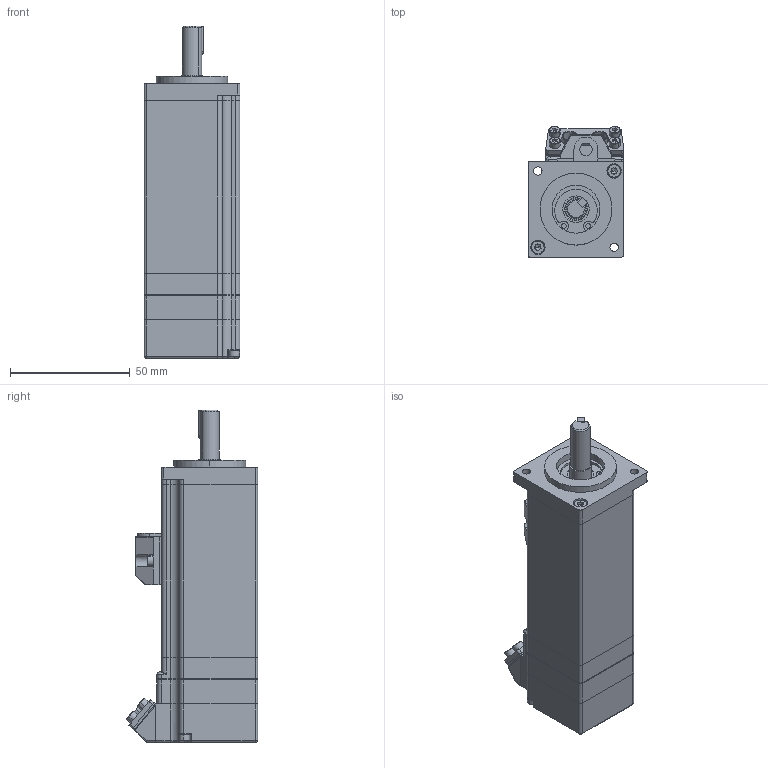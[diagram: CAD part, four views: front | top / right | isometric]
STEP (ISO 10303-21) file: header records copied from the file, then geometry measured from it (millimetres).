
FILE_DESCRIPTION (( 'STEP AP203' ), '1' );
FILE_NAME ('SMH40-530D10EBL-1.STEP', '2020-03-18T01:57:47', ( 'user' ), ( '' ), 'SwSTEP 2.0', 'SolidWorks 2016', '' );
FILE_SCHEMA (( 'CONFIG_CONTROL_DESIGN' ));
Length unit declared in the file: millimetre
Products named in the file (1): SMH40-530D10EBL-1
Bounding box: 40 x 54.65 x 138.4 mm (x, y, z)
Volume: 79183.9 mm3; surface area: 60227.9 mm2
Topology: 25 solids, 25 shells, 1025 faces, 2796 edges, 1782 vertices
Faces by surface type: cylinder 428, plane 391, torus 106, cone 55, sphere 43, bspline 2
Entity records: 33090 total; most frequent: CARTESIAN_POINT 7088, DIRECTION 5643, ORIENTED_EDGE 5352, EDGE_CURVE 2676, AXIS2_PLACEMENT_3D 2219, VERTEX_POINT 1720, VECTOR 1205, LINE 1205
